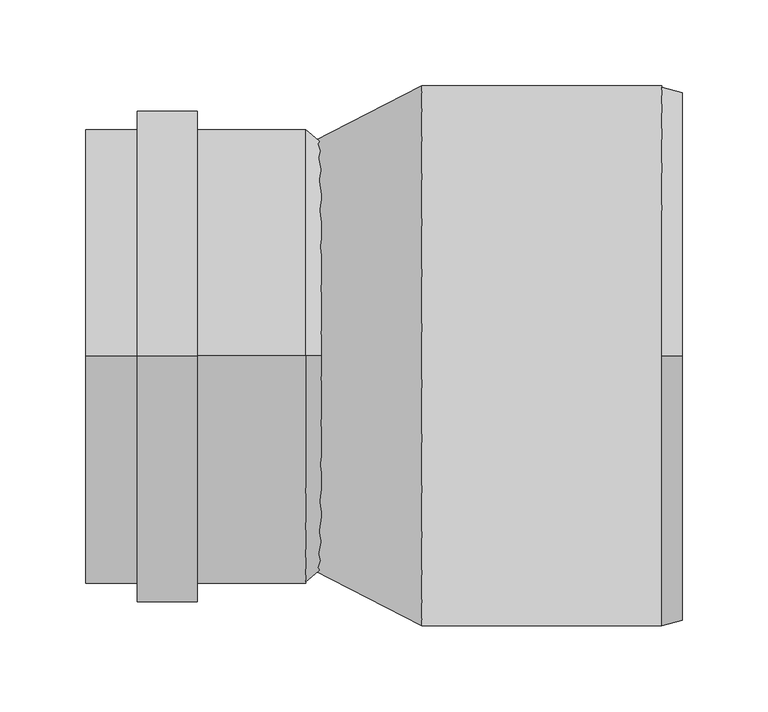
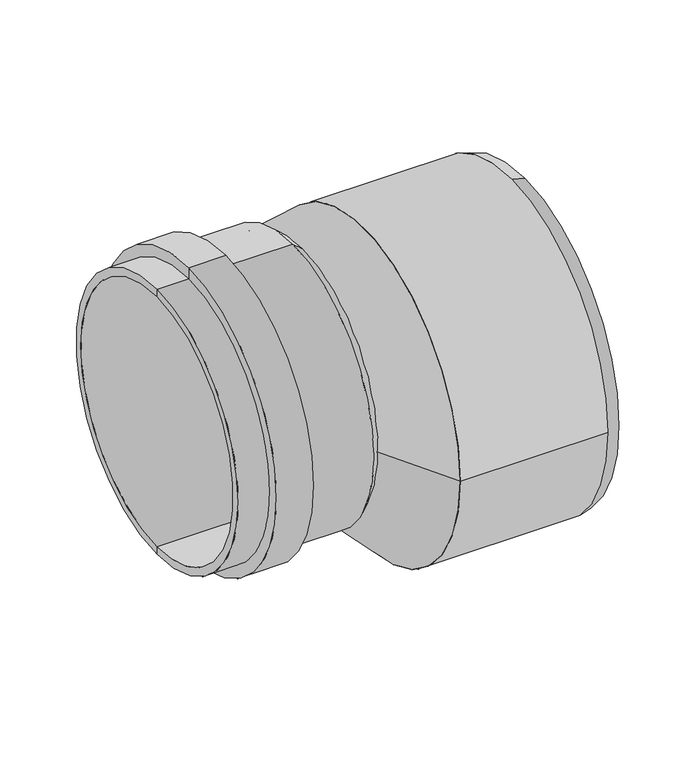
"""IFC4 building model written with IfcOpenShell, lengths in millimetres: pipe fitting geometry, OSMA_KG2000_PPKGR : Redukce nesouosá dlouhá."""

from ifc_helpers import new_model, si_unit, frame, origin, place, context, project, spatial, polyline, circle_curve, source, transform, mapped, element, save
from ifc_brep_helpers import plane_surface, cylinder_surface, revolved_surface, spline_surface, advanced_brep


def pipe_fitting_3ab6cf25(model_context):
    return source(origin(), model_context, "Body", "AdvancedBrep", [
        advanced_brep(
        [(-4.5, 0.0, 125.0), (-4.5, 0.0, -125.0), (-133.0, 0.0, -125.0), (-133.0, 0.0, 125.0), (-68.0, 0.0, 132.7), (-68.0, 0.0, -132.7), (-4.5, 0.0, -132.7), (-4.5, 0.0, 132.7), (-68.0, 0.0, -143.5), (-68.0, 0.0, 143.5), (-103.0, 0.0, -143.5), (-103.0, 0.0, 143.5), (-103.0, 0.0, -132.7), (-103.0, 0.0, 132.7), (-133.0, 0.0, -132.7), (-133.0, 0.0, 132.7), (4.5, 0.0, 117.3), (4.5, 0.0, -117.3), (4.5, 0.0, 125.0), (4.5, 0.0, -125.0)],
        [
            (0, 1, circle_curve(frame((-4.5, 0.0, 0.0), z_axis=(1.0, 0.0, 0.0), x_axis=(0.0, 0.0, -1.0)), 125.0)),
            (1, 2),
            (2, 3, circle_curve(frame((-133.0, 0.0, 0.0), z_axis=(-1.0, 0.0, 0.0), x_axis=(0.0, 0.0, -1.0)), 125.0)),
            (3, 0),
            (1, 0, circle_curve(frame((-4.5, 0.0, 0.0), z_axis=(1.0, 0.0, 0.0), x_axis=(0.0, 0.0, -1.0)), 125.0)),
            (3, 2, circle_curve(frame((-133.0, 0.0, 0.0), z_axis=(-1.0, 0.0, 0.0), x_axis=(0.0, 0.0, -1.0)), 125.0)),
            (4, 5, circle_curve(frame((-68.0, 0.0, 0.0), z_axis=(1.0, 0.0, 0.0), x_axis=(0.0, 0.0, -1.0)), 132.7)),
            (5, 6),
            (6, 7, circle_curve(frame((-4.5, 0.0, 0.0), z_axis=(-1.0, 0.0, 0.0), x_axis=(0.0, 0.0, -1.0)), 132.7)),
            (7, 4),
            (8, 9, circle_curve(frame((-68.0, 0.0, 0.0), z_axis=(1.0, 0.0, 0.0), x_axis=(0.0, 0.0, -1.0)), 143.5)),
            (9, 4),
            (4, 5, circle_curve(frame((-68.0, 0.0, 0.0), z_axis=(-1.0, 0.0, 0.0), x_axis=(0.0, 0.0, -1.0)), 132.7)),
            (5, 8),
            (10, 11, circle_curve(frame((-103.0, 0.0, 0.0), z_axis=(1.0, 0.0, 0.0), x_axis=(0.0, 0.0, -1.0)), 143.5)),
            (11, 9),
            (8, 10),
            (12, 13, circle_curve(frame((-103.0, 0.0, 0.0), z_axis=(1.0, 0.0, 0.0), x_axis=(0.0, 0.0, -1.0)), 132.7)),
            (13, 11),
            (10, 12),
            (14, 15, circle_curve(frame((-133.0, 0.0, 0.0), z_axis=(1.0, 0.0, 0.0), x_axis=(0.0, 0.0, -1.0)), 132.7)),
            (15, 13),
            (12, 14),
            (16, 17, circle_curve(frame((4.5, 0.0, 0.0), z_axis=(1.0, 0.0, 0.0), x_axis=(0.0, 0.0, -1.0)), 117.3)),
            (17, 1),
            (0, 16),
            (17, 16, circle_curve(frame((4.5, 0.0, 0.0), z_axis=(1.0, 0.0, 0.0), x_axis=(0.0, 0.0, -1.0)), 117.3)),
            (18, 19, circle_curve(frame((4.5, 0.0, 0.0), z_axis=(1.0, 0.0, 0.0), x_axis=(0.0, 0.0, -1.0)), 125.0)),
            (19, 17),
            (16, 18),
            (19, 18, circle_curve(frame((4.5, 0.0, 0.0), z_axis=(1.0, 0.0, 0.0), x_axis=(0.0, 0.0, -1.0)), 125.0)),
            (6, 19),
            (18, 7),
            (6, 7, circle_curve(frame((-4.5, 0.0, 0.0), z_axis=(1.0, 0.0, 0.0), x_axis=(0.0, 0.0, -1.0)), 132.7)),
            (9, 8, circle_curve(frame((-68.0, 0.0, 0.0), z_axis=(1.0, 0.0, 0.0), x_axis=(0.0, 0.0, -1.0)), 143.5)),
            (11, 10, circle_curve(frame((-103.0, 0.0, 0.0), z_axis=(1.0, 0.0, 0.0), x_axis=(0.0, 0.0, -1.0)), 143.5)),
            (13, 12, circle_curve(frame((-103.0, 0.0, 0.0), z_axis=(1.0, 0.0, 0.0), x_axis=(0.0, 0.0, -1.0)), 132.7)),
            (15, 14, circle_curve(frame((-133.0, 0.0, 0.0), z_axis=(1.0, 0.0, 0.0), x_axis=(0.0, 0.0, -1.0)), 132.7)),
            (2, 14),
            (15, 3),
        ],
        [
            revolved_surface(polyline([(-133.0, 0.0, -125.0), (-4.5, 0.0, -125.0)]), (-2802.4742198, 0.0, 0.0), (-1.0, 0.0, 0.0)),
            cylinder_surface(frame((-2802.4742198, 0.0, 0.0), z_axis=(-1.0, 0.0, 0.0), x_axis=(0.0, 0.0, -1.0)), 132.7),
            plane_surface(frame((-68.0, 0.0, 0.0), z_axis=(1.0, 0.0, 0.0), x_axis=(0.0, 0.0, -1.0))),
            cylinder_surface(frame((-2802.4742198, 0.0, 0.0), z_axis=(-1.0, 0.0, 0.0), x_axis=(0.0, 0.0, -1.0)), 143.5),
            plane_surface(frame((-103.0, 0.0, 0.0), z_axis=(-1.0, 0.0, 0.0), x_axis=(0.0, 0.0, -1.0))),
            revolved_surface(polyline([(-4.5, 0.0, -125.0), (4.5, 0.0, -117.3)]), (-2802.4742198, 0.0, 0.0), (-1.0, 0.0, 0.0)),
            plane_surface(frame((4.5, 0.0, 0.0), z_axis=(1.0, 0.0, 0.0), x_axis=(0.0, 0.0, -1.0))),
            revolved_surface(polyline([(4.5, 0.0, -125.0), (-4.5, 0.0, -132.7)]), (-2802.4742198, 0.0, 0.0), (-1.0, 0.0, 0.0)),
            plane_surface(frame((-133.0, 0.0, 0.0), z_axis=(-1.0, 0.0, 0.0), x_axis=(0.0, 0.0, -1.0))),
        ],
        [
            (0, [[1, 2, 3, 4]]),
            (0, [[5, -4, 6, -2]]),
            (1, [[7, 8, 9, 10]]),
            (2, [[11, 12, 13, 14]]),
            (3, [[15, 16, -11, 17]]),
            (4, [[18, 19, -15, 20]]),
            (1, [[21, 22, -18, 23]]),
            (5, [[24, 25, -1, 26]]),
            (5, [[27, -26, -5, -25]]),
            (6, [[28, 29, -24, 30]]),
            (6, [[31, -30, -27, -29]]),
            (7, [[-9, 32, -28, 33]]),
            (7, [[34, -33, -31, -32]]),
            (1, [[-13, -10, -34, -8]]),
            (2, [[35, -14, -7, -12]]),
            (3, [[36, -17, -35, -16]]),
            (4, [[37, -20, -36, -19]]),
            (1, [[38, -23, -37, -22]]),
            (8, [[-3, 39, -38, 40]]),
            (8, [[-6, -40, -21, -39]]),
        ],
    ),
        advanced_brep(
        [(215.0, 0.0, -186.7846097), (215.0, 0.0, 121.7846097), (215.0, 0.0, 115.3), (215.0, 0.0, -180.3), (203.0, 0.0, -190.0), (203.0, 157.5, -32.5), (203.0, 0.0, 125.0), (203.0, -157.5, -32.5), (203.0, 0.0, 115.3), (203.0, 0.0, -180.3), (63.0, 157.5, -32.5), (63.0, -157.5, -32.5)],
        [
            (0, 1, circle_curve(frame((215.0, 0.0, -32.5), z_axis=(1.0, 0.0, 0.0), x_axis=(0.0, 0.0, 1.0)), 154.2846097)),
            (1, 2),
            (2, 3, circle_curve(frame((215.0, 0.0, -32.5), z_axis=(-1.0, 0.0, 0.0), x_axis=(0.0, 0.0, 1.0)), 147.8)),
            (3, 0),
            (1, 0, circle_curve(frame((215.0, 0.0, -32.5), z_axis=(1.0, 0.0, 0.0), x_axis=(0.0, 0.0, 1.0)), 154.2846097)),
            (3, 2, circle_curve(frame((215.0, 0.0, -32.5), z_axis=(-1.0, 0.0, 0.0), x_axis=(0.0, 0.0, 1.0)), 147.8)),
            (0, 4),
            (4, 5, circle_curve(frame((203.0, 0.0, -32.5), z_axis=(1.0, 0.0, 0.0), x_axis=(0.0, 0.0, 1.0)), 157.5)),
            (5, 6, circle_curve(frame((203.0, 0.0, -32.5), z_axis=(1.0, 0.0, 0.0), x_axis=(0.0, 0.0, 1.0)), 157.5)),
            (6, 1),
            (6, 7, circle_curve(frame((203.0, 0.0, -32.5), z_axis=(1.0, 0.0, 0.0), x_axis=(0.0, 0.0, 1.0)), 157.5)),
            (7, 4, circle_curve(frame((203.0, 0.0, -32.5), z_axis=(1.0, 0.0, 0.0), x_axis=(0.0, 0.0, 1.0)), 157.5)),
            (2, 8),
            (8, 9, circle_curve(frame((203.0, 0.0, -32.5), z_axis=(-1.0, 0.0, 0.0), x_axis=(0.0, 0.0, 1.0)), 147.8)),
            (9, 3),
            (9, 8, circle_curve(frame((203.0, 0.0, -32.5), z_axis=(-1.0, 0.0, 0.0), x_axis=(0.0, 0.0, 1.0)), 147.8)),
            (10, 11, circle_curve(frame((63.0, 0.0, -32.5), z_axis=(-1.0, 0.0, 0.0), x_axis=(0.0, -1.0, 0.0)), 157.5)),
            (11, 10, circle_curve(frame((63.0, 0.0, -32.5), z_axis=(-1.0, 0.0, 0.0), x_axis=(0.0, -1.0, 0.0)), 157.5)),
            (11, 7),
            (5, 10),
        ],
        [
            plane_surface(frame((215.0, 0.0, -32.5), z_axis=(1.0, 0.0, 0.0), x_axis=(0.0, 0.0, 1.0))),
            revolved_surface(polyline([(215.0, 0.0, 121.7846097), (203.0, 0.0, 125.0)]), (81.4287569, 0.0, -32.5), (-1.0, 0.0, 0.0)),
            revolved_surface(polyline([(203.0, 0.0, 115.30000000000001), (215.0, 0.0, 115.30000000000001)]), (81.4287569, 0.0, -32.5), (-1.0, 0.0, 0.0)),
            plane_surface(frame((203.0, 0.0, 0.0), z_axis=(1.0, 0.0, 0.0), x_axis=(0.0, 0.0, 1.0))),
            plane_surface(frame((63.0, 0.0, 0.0), z_axis=(-1.0, 0.0, 0.0), x_axis=(0.0, 0.0, 1.0))),
            cylinder_surface(frame((203.0, 0.0, -32.5), z_axis=(1.0, 0.0, 0.0), x_axis=(0.0, -1.0, 0.0)), 157.5),
        ],
        [
            (0, [[1, 2, 3, 4]]),
            (0, [[-2, 5, -4, 6]]),
            (1, [[-1, 7, 8, 9, 10]]),
            (1, [[-5, -10, 11, 12, -7]]),
            (2, [[-3, 13, 14, 15]]),
            (2, [[-6, -15, 16, -13]]),
            (3, [[-14, -16]]),
            (4, [[17, 18]]),
            (5, [[-18, 19, -11, -9, 20]]),
            (5, [[-17, -20, -8, -12, -19]]),
        ],
    ),
        advanced_brep(
        [(0.0, 125.0, 0.0), (0.0, -125.0, 0.0), (63.0, 157.5, -32.5), (63.0, -157.5, -32.5)],
        [
            (0, 1, circle_curve(frame((0.0, 0.0, 0.0), z_axis=(-1.0, 0.0, 0.0), x_axis=(0.0, -1.0, 0.0)), 125.0)),
            (1, 0, circle_curve(frame((0.0, 0.0, 0.0), z_axis=(-1.0, 0.0, 0.0), x_axis=(0.0, -1.0, 0.0)), 125.0)),
            (2, 3, circle_curve(frame((63.0, 0.0, -32.5), z_axis=(1.0, 0.0, 0.0), x_axis=(0.0, -1.0, 0.0)), 157.5)),
            (3, 2, circle_curve(frame((63.0, 0.0, -32.5), z_axis=(1.0, 0.0, 0.0), x_axis=(0.0, -1.0, 0.0)), 157.5)),
            (3, 1),
            (0, 2),
        ],
        [
            plane_surface(frame((0.0, 0.0, 0.0), z_axis=(-1.0, 0.0, 0.0), x_axis=(0.0, 0.0, -1.0))),
            plane_surface(frame((63.0, 0.0, -32.5), z_axis=(1.0, 0.0, 0.0), x_axis=(0.0, 0.0, -1.0))),
            spline_surface(2, 1, [[(63.0, 157.5, -32.5), (0.0, 125.0, 0.0)], [(63.0, 157.5, -190.0), (0.0, 125.0, -125.0)], [(63.0, 0.0, -190.0), (0.0, 0.0, -125.0)], [(63.0, -157.5, -190.0), (0.0, -125.0, -125.0)], [(63.0, -157.5, -32.5), (0.0, -125.0, 0.0)]], [3, 2, 3], [2, 2], [0.0, 1.0, 2.0], [0.0, 1.0], weights=[[1.0, 1.0], [0.7071067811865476, 0.7071067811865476], [1.0, 1.0], [0.7071067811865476, 0.7071067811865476], [1.0, 1.0]]),
            spline_surface(2, 1, [[(63.0, -157.5, -32.5), (0.0, -125.0, 0.0)], [(63.0, -157.5, 125.0), (0.0, -125.0, 125.0)], [(63.0, 0.0, 125.0), (0.0, 0.0, 125.0)], [(63.0, 157.5, 125.0), (0.0, 125.0, 125.0)], [(63.0, 157.5, -32.5), (0.0, 125.0, 0.0)]], [3, 2, 3], [2, 2], [0.0, 1.0, 2.0], [0.0, 1.0], weights=[[1.0, 1.0], [0.7071067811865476, 0.7071067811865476], [1.0, 1.0], [0.7071067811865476, 0.7071067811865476], [1.0, 1.0]]),
        ],
        [
            (0, [[1, 2]]),
            (1, [[3, 4]]),
            (2, [[-4, 5, -1, 6]]),
            (3, [[-3, -6, -2, -5]]),
        ],
    ),
    ])


if __name__ == "__main__":
    model = new_model("IFC4")
    model_context = context("Model", 3, world=origin())
    ifc_project = project(units=[si_unit("LENGTHUNIT", "METRE", prefix="MILLI")], contexts=[model_context])
    site = spatial("IfcSite", under=ifc_project)
    building = spatial("IfcBuilding", under=site)
    placement = place(None, origin())
    pipe_fitting_shape = pipe_fitting_3ab6cf25(model_context)
    element("IfcPipeFitting", 1, ObjectType="OSMA_KG2000_PPKGR : Redukce nesouosá dlouhá", at=placement, inside=building, context=model_context, shape_type="MappedRepresentation", body=[
        mapped(pipe_fitting_shape, transform((0.0, 0.0, 0.0), x_axis=(1.0, 0.0, 0.0), y_axis=(0.0, 1.0, 0.0), z_axis=(0.0, 0.0, 1.0))),
    ])
    save(model, "model.ifc")
